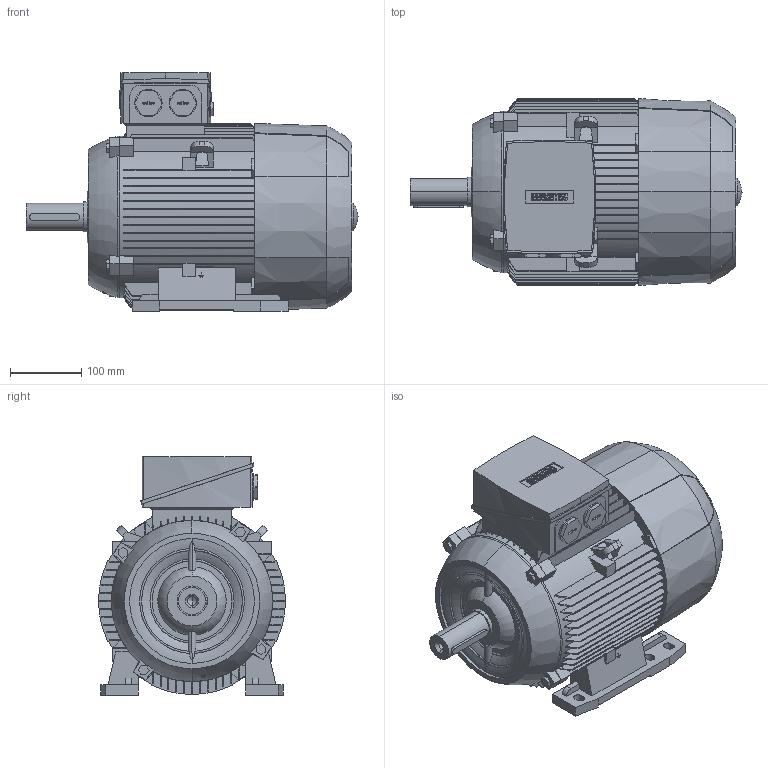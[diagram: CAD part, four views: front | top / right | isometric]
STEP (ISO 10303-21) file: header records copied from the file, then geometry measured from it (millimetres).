
FILE_DESCRIPTION(('STEP AP214'),'1');
FILE_NAME('cctmp_1750E98A-F793-44BD-977D-7737F0501787_2026_05_12_11_11_37_0709_9536..stp','2026-05-12T09:11:38',('KiM GmbH'),('CADClick - www.CADClick.com'),'Spatial InterOp 3D',' ','unknown authorization');
FILE_SCHEMA(('AUTOMOTIVE_DESIGN'));
Length unit declared in the file: millimetre
Products named in the file (1): 2026_05_12_11_11_37_0709
Bounding box: 465 x 262 x 334 mm (x, y, z)
Volume: 18448835.9 mm3; surface area: 803888.6 mm2
Topology: 7 solids, 7 shells, 1021 faces, 2878 edges, 1903 vertices
Faces by surface type: plane 626, cylinder 239, torus 136, cone 20
Entity records: 48260 total; most frequent: CARTESIAN_POINT 13986, ORIENTED_EDGE 5748, DIRECTION 5035, EDGE_CURVE 2874, VERTEX_POINT 1903, LINE 1781, VECTOR 1781, AXIS2_PLACEMENT_3D 1627
